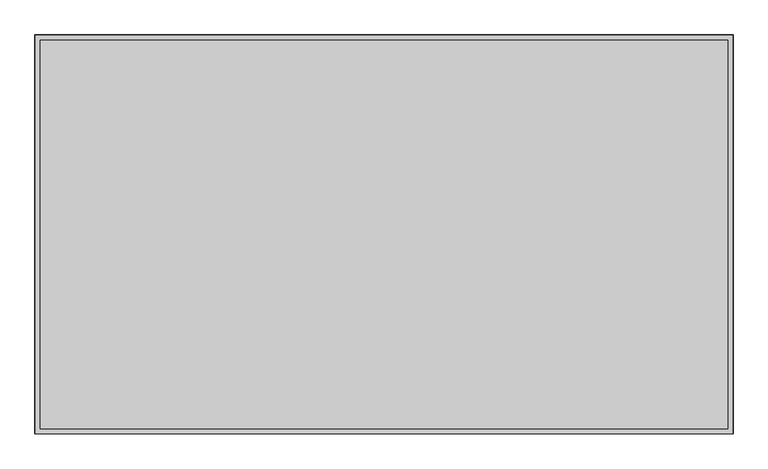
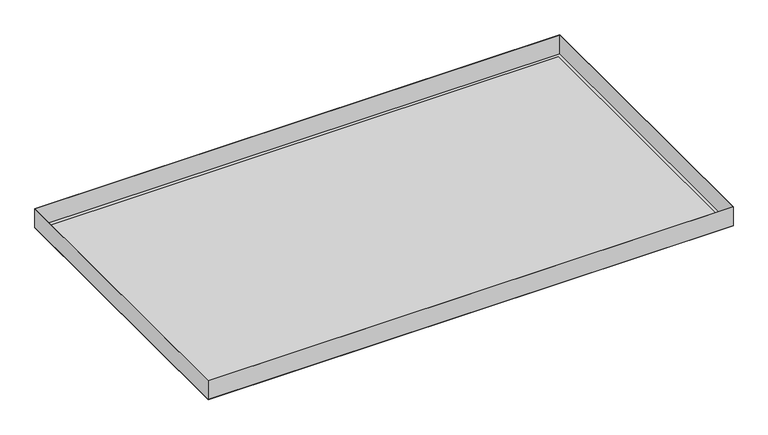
"""IFC4 building model written with IfcOpenShell, lengths in millimetres: proxy geometry, durlum_S5-100_panel : durlum_S5-100_panel."""

from ifc_helpers import new_model, si_unit, frame, origin, origin_with_axes, place, context, project, spatial, polyline, outline, extrude, source, transform, mapped, element, save


def generic_models_460f2259(model_context):
    return source(origin(), model_context, "Body", "SweptSolid", [
        extrude(outline(polyline([(524.5, 299.75), (524.5, -299.75), (-524.5, -299.75), (-524.5, 299.75), (524.5, 299.75)]), holes=[polyline([(523.9, 299.15), (-523.9, 299.15), (-523.9, -299.15), (523.9, -299.15), (523.9, 299.15)])]), frame((0.0, 0.0, 0.6), z_axis=(0.0, 0.0, 1.0), x_axis=(1.0, 0.0, 0.0)), (0.0, 0.0, 1.0), 39.4),
        extrude(outline(polyline([(516.5, 291.75), (516.5, -291.75), (-516.5, -291.75), (-516.5, 291.75), (516.5, 291.75)])), frame((0.0, 0.0, 0.6), z_axis=(0.0, 0.0, 1.0), x_axis=(1.0, 0.0, 0.0)), (0.0, 0.0, 1.0), 0.6),
        extrude(outline(polyline([(524.5, 299.75), (524.5, -299.75), (-524.5, -299.75), (-524.5, 299.75), (524.5, 299.75)]), holes=[polyline([(516.5, 291.75), (-516.5, 291.75), (-516.5, -291.75), (516.5, -291.75), (516.5, 291.75)])]), origin_with_axes(), (0.0, 0.0, 1.0), 0.6),
        extrude(outline(polyline([(516.5, 291.75), (516.5, -291.75), (-516.5, -291.75), (-516.5, 291.75), (516.5, 291.75)])), origin_with_axes(), (0.0, 0.0, 1.0), 0.6),
    ])


if __name__ == "__main__":
    model = new_model("IFC4")
    model_context = context("Model", 3, world=origin())
    ifc_project = project(units=[si_unit("LENGTHUNIT", "METRE", prefix="MILLI")], contexts=[model_context])
    site = spatial("IfcSite", under=ifc_project)
    building = spatial("IfcBuilding", under=site)
    placement = place(None, origin())
    generic_models_shape = generic_models_460f2259(model_context)
    element("IfcBuildingElementProxy", 1, Name="durlum_S5-100_panel : durlum_S5-100_panel", ObjectType="durlum_S5-100_panel : durlum_S5-100_panel", at=placement, inside=building, context=model_context, shape_type="MappedRepresentation", body=[
        mapped(generic_models_shape, transform((0.0, 0.0, 0.0), x_axis=(1.0, 0.0, 0.0), y_axis=(0.0, 1.0, 0.0), z_axis=(0.0, 0.0, 1.0))),
    ])
    save(model, "model.ifc")
